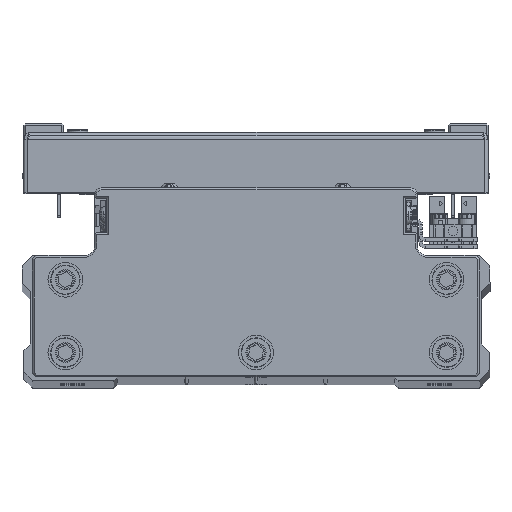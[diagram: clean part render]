
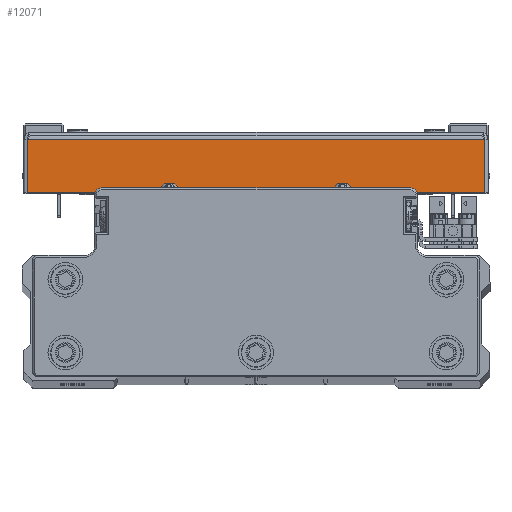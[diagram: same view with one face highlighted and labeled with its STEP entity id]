
A CAD part, top view. The second image highlights one B-rep face of the part: STEP entity #12071.
In plain terms, the highlighted planar face has unit normal (0, 0, 1) as drawn and (1, 0, 0) by its records, which use the part's own axes.
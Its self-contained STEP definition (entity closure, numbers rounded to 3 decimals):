
#2538 = VECTOR ( 'NONE', #6054, 1000. ) ;
#3062 = VERTEX_POINT ( 'NONE', #43690 ) ;
#4804 = AXIS2_PLACEMENT_3D ( 'NONE', #5848, #19565, #33227 ) ;
#5689 = VERTEX_POINT ( 'NONE', #11235 ) ;
#5848 = CARTESIAN_POINT ( 'NONE',  ( 75., 0., 0. ) ) ;
#6054 = DIRECTION ( 'NONE',  ( 0., 0., 1. ) ) ;
#7198 = VECTOR ( 'NONE', #23566, 1000. ) ;
#9319 = LINE ( 'NONE', #23014, #34873 ) ;
#9877 = CARTESIAN_POINT ( 'NONE',  ( 75., 1., 67. ) ) ;
#11235 = CARTESIAN_POINT ( 'NONE',  ( 75., 16.5, -65.929 ) ) ;
#12063 = CARTESIAN_POINT ( 'NONE',  ( 75., 0., -65.929 ) ) ;
#12071 = ADVANCED_FACE ( 'NONE', ( #22915 ), #36610, .F. ) ;
#12835 = EDGE_CURVE ( 'NONE', #42086, #5689, #42808, .T. ) ;
#13366 = CARTESIAN_POINT ( 'NONE',  ( 75., 1., -65.929 ) ) ;
#13959 = ORIENTED_EDGE ( 'NONE', *, *, #25323, .T. ) ;
#19565 = DIRECTION ( 'NONE',  ( -1., 0., 0. ) ) ;
#19906 = VERTEX_POINT ( 'NONE', #39891 ) ;
#22915 = FACE_OUTER_BOUND ( 'NONE', #42212, .T. ) ;
#23014 = CARTESIAN_POINT ( 'NONE',  ( 75., 0., 65.929 ) ) ;
#23133 = LINE ( 'NONE', #36816, #2538 ) ;
#23566 = DIRECTION ( 'NONE',  ( 0., 0., 1. ) ) ;
#24886 = VECTOR ( 'NONE', #25747, 1000. ) ;
#25323 = EDGE_CURVE ( 'NONE', #5689, #3062, #23133, .T. ) ;
#25747 = DIRECTION ( 'NONE',  ( 0., 1., 0. ) ) ;
#33227 = DIRECTION ( 'NONE',  ( 0., -1., 0. ) ) ;
#34873 = VECTOR ( 'NONE', #36706, 1000. ) ;
#36610 = PLANE ( 'NONE',  #4804 ) ;
#36706 = DIRECTION ( 'NONE',  ( 0., 1., 0. ) ) ;
#36816 = CARTESIAN_POINT ( 'NONE',  ( 75., 16.5, 0. ) ) ;
#39891 = CARTESIAN_POINT ( 'NONE',  ( 75., 1., 65.929 ) ) ;
#40613 = LINE ( 'NONE', #9877, #7198 ) ;
#41552 = ORIENTED_EDGE ( 'NONE', *, *, #12835, .T. ) ;
#41616 = ORIENTED_EDGE ( 'NONE', *, *, #43909, .F. ) ;
#42016 = EDGE_CURVE ( 'NONE', #19906, #3062, #9319, .T. ) ;
#42086 = VERTEX_POINT ( 'NONE', #13366 ) ;
#42102 = ORIENTED_EDGE ( 'NONE', *, *, #42016, .F. ) ;
#42212 = EDGE_LOOP ( 'NONE', ( #41616, #41552, #13959, #42102 ) ) ;
#42808 = LINE ( 'NONE', #12063, #24886 ) ;
#43690 = CARTESIAN_POINT ( 'NONE',  ( 75., 16.5, 65.929 ) ) ;
#43909 = EDGE_CURVE ( 'NONE', #42086, #19906, #40613, .T. ) ;
